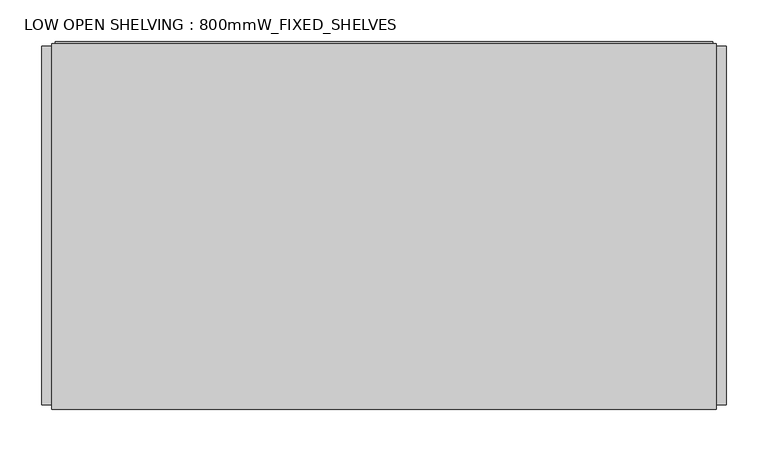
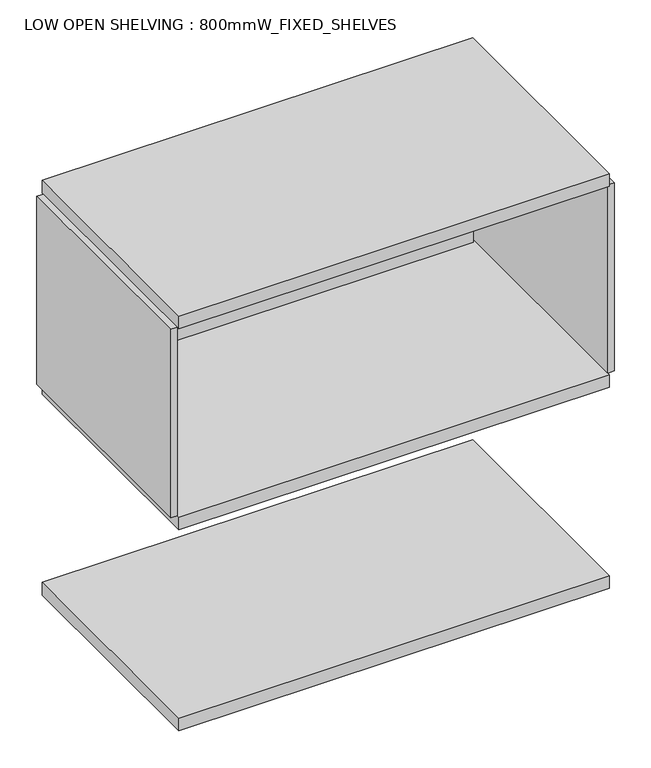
"""IFC4 building model written with IfcOpenShell, lengths in millimetres: furniture geometry, LOW OPEN SHELVING : 800mmW_FIXED_SHELVES."""

from ifc_helpers import new_model, si_unit, frame, origin, place, context, project, spatial, polyline, outline, extrude, source, transform, mapped, element, save


def low_open_shelving_800mmw_fixed_shelves_ecbbac49(model_context):
    return source(origin(), model_context, "Body", "SweptSolid", [
        extrude(outline(polyline([(412.0, -214.7757931), (400.0, -214.7757931), (400.0, 217.1931665), (412.0, 217.1931665), (412.0, -214.7757931)])), frame((0.0, 0.0, 413.0), z_axis=(0.0, 0.0, 1.0), x_axis=(1.0, 0.0, 0.0)), (0.0, 0.0, 1.0), 370.0),
        extrude(outline(polyline([(-400.0, -214.7757931), (-412.0, -214.7757931), (-412.0, 217.1931665), (-400.0, 217.1931665), (-400.0, -214.7757931)])), frame((0.0, 0.0, 413.0), z_axis=(0.0, 0.0, 1.0), x_axis=(1.0, 0.0, 0.0)), (0.0, 0.0, 1.0), 370.0),
        extrude(outline(polyline([(400.0, 220.0), (400.0, -220.0), (-400.0, -220.0), (-400.0, 220.0), (400.0, 220.0)])), frame((0.0, 0.0, -7.0), z_axis=(0.0, 0.0, 1.0), x_axis=(1.0, 0.0, 0.0)), (0.0, 0.0, 1.0), 25.0),
        extrude(outline(polyline([(400.0, 220.0), (400.0, -220.0), (-400.0, -220.0), (-400.0, 220.0), (400.0, 220.0)])), frame((0.0, 0.0, 388.0), z_axis=(0.0, 0.0, 1.0), x_axis=(1.0, 0.0, 0.0)), (0.0, 0.0, 1.0), 25.0),
        extrude(outline(polyline([(400.0, 220.0), (400.0, -220.0), (-400.0, -220.0), (-400.0, 220.0), (400.0, 220.0)])), frame((0.0, 0.0, 783.0), z_axis=(0.0, 0.0, 1.0), x_axis=(1.0, 0.0, 0.0)), (0.0, 0.0, 1.0), 25.0),
        extrude(outline(polyline([(395.4939356, 222.7282814), (395.4939356, 210.7282814), (-395.4939356, 210.7282814), (-395.4939356, 222.7282814), (395.4939356, 222.7282814)])), frame((0.0, 0.0, 413.0), z_axis=(0.0, 0.0, 1.0), x_axis=(1.0, 0.0, 0.0)), (0.0, 0.0, 1.0), 370.0),
    ])


if __name__ == "__main__":
    model = new_model("IFC4")
    model_context = context("Model", 3, world=origin())
    ifc_project = project(units=[si_unit("LENGTHUNIT", "METRE", prefix="MILLI")], contexts=[model_context])
    site = spatial("IfcSite", under=ifc_project)
    building = spatial("IfcBuilding", under=site)
    placement = place(None, origin())
    low_open_shelving_800mmw_fixed_shelves_shape = low_open_shelving_800mmw_fixed_shelves_ecbbac49(model_context)
    element("IfcFurniture", 1, ObjectType="LOW OPEN SHELVING : 800mmW_FIXED_SHELVES", at=placement, inside=building, context=model_context, shape_type="MappedRepresentation", body=[
        mapped(low_open_shelving_800mmw_fixed_shelves_shape, transform((0.0, 0.0, 0.0), x_axis=(1.0, 0.0, 0.0), y_axis=(0.0, 1.0, 0.0), z_axis=(0.0, 0.0, 1.0))),
    ])
    save(model, "model.ifc")
